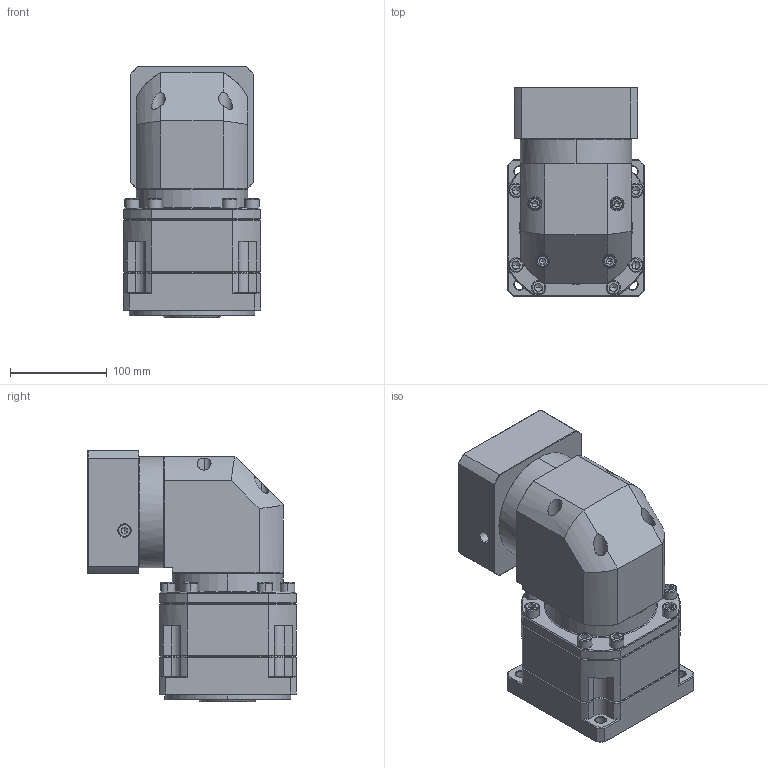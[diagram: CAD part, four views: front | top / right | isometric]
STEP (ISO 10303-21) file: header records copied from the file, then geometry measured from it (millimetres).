
FILE_DESCRIPTION (( 'STEP AP214' ), '1' );
FILE_NAME ('ZBR142A-K35-L2-P2-28-110-145-M8.step', '2023-09-02T08:13:56', ( '' ), ( '' ), 'SwSTEP 2.0', 'SolidWorks 2016', '' );
FILE_SCHEMA (( 'AUTOMOTIVE_DESIGN' ));
Length unit declared in the file: millimetre
Products named in the file (1): ZBR142A-K35-L2-P2-28-110-145-M8
Bounding box: 142 x 215.9 x 260.2 mm (x, y, z)
Volume: 4423259.3 mm3; surface area: 325832.5 mm2
Topology: 6 solids, 6 shells, 2532 faces, 6585 edges, 4175 vertices
Faces by surface type: plane 1226, cylinder 465, bspline 404, cone 393, torus 44
Entity records: 130476 total; most frequent: CARTESIAN_POINT 43842, ORIENTED_EDGE 13066, DIRECTION 10721, EDGE_CURVE 6533, LINE 4219, VECTOR 4219, VERTEX_POINT 4175, AXIS2_PLACEMENT_3D 3251
